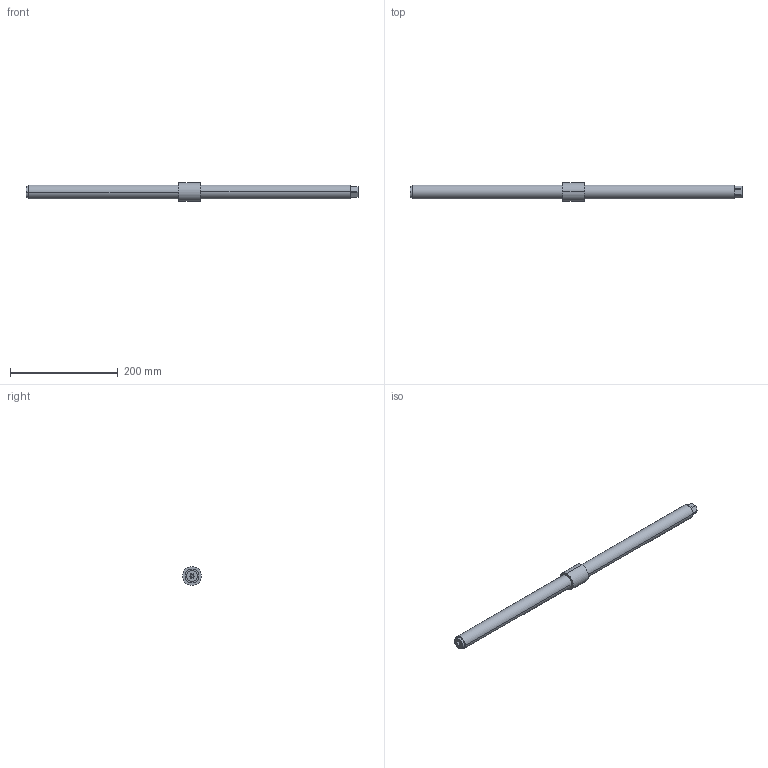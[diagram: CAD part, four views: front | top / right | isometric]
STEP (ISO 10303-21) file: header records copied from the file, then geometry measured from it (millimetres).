
FILE_DESCRIPTION (( 'STEP AP214' ), '1' );
FILE_NAME ('81006.STEP', '2020-10-28T06:51:19', ( '' ), ( '' ), 'SwSTEP 2.0', 'SolidWorks 2019', '' );
FILE_SCHEMA (( 'AUTOMOTIVE_DESIGN' ));
Length unit declared in the file: millimetre
Products named in the file (1): 81006
Bounding box: 617 x 35 x 35 mm (x, y, z)
Volume: 342010.2 mm3; surface area: 61214.3 mm2
Topology: 3 solids, 3 shells, 53 faces, 125 edges, 80 vertices
Faces by surface type: plane 28, cylinder 21, cone 4
Entity records: 2140 total; most frequent: DIRECTION 271, CARTESIAN_POINT 255, ORIENTED_EDGE 242, EDGE_CURVE 121, AXIS2_PLACEMENT_3D 96, VERTEX_POINT 80, VECTOR 79, LINE 79
